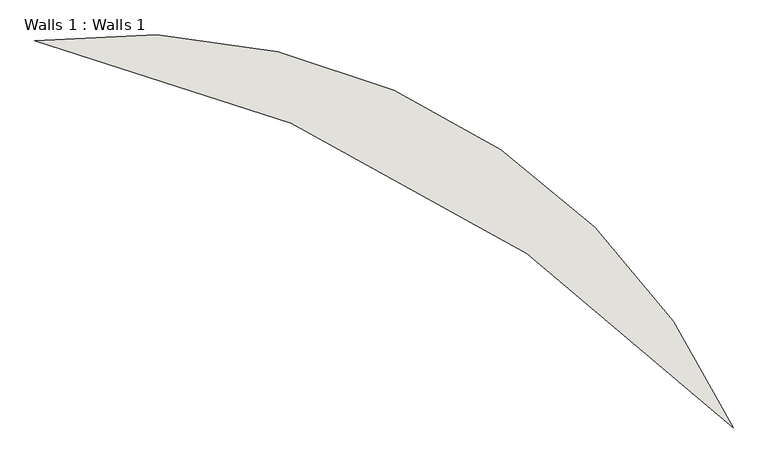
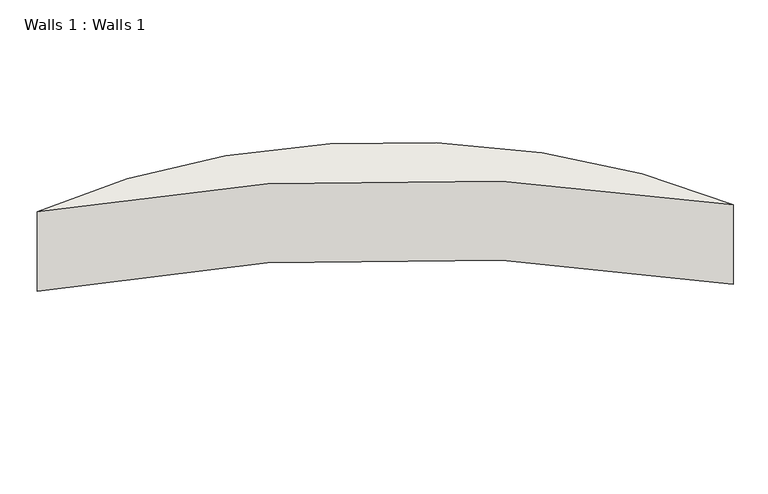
"""IFC4 building model written with IfcOpenShell, lengths in millimetres: wall geometry, Walls 1 : Walls 1."""

from ifc_helpers import new_model, si_unit, point, frame_2d, origin, origin_with_axes, place, context, project, spatial, circle_curve, trimmed, segment, composite_curve, outline, extrude, source, transform, mapped, element, save


def walls_1_walls_1_20c79dd2(model_context):
    return source(origin(), model_context, "Body", "SweptSolid", [
        extrude(outline(composite_curve([segment(trimmed(circle_curve(frame_2d((6245.0483329, -10072.9508536)), 31261.8268674), [point((28631.0016498, 11748.3899207))], [point((12887.8469213, 20474.9630851))], True, "CARTESIAN"), True, "CONTINUOUS"), segment(trimmed(circle_curve(frame_2d((14960.0636537, 5649.352973)), 14969.729369), [point((12887.8469213, 20474.9630851))], [point((28631.0016498, 11748.3899207))], False, "CARTESIAN"), True, "CONTINUOUS")], self_intersect=False)), origin_with_axes(), (0.0, 0.0, 1.0), 2500.0),
    ])


if __name__ == "__main__":
    model = new_model("IFC4")
    model_context = context("Model", 3, world=origin())
    ifc_project = project(units=[si_unit("LENGTHUNIT", "METRE", prefix="MILLI")], contexts=[model_context])
    site = spatial("IfcSite", under=ifc_project)
    building = spatial("IfcBuilding", under=site)
    placement = place(None, origin())
    walls_1_walls_1_shape = walls_1_walls_1_20c79dd2(model_context)
    element("IfcWall", 1, ObjectType="Walls 1 : Walls 1", at=placement, inside=building, context=model_context, shape_type="MappedRepresentation", body=[
        mapped(walls_1_walls_1_shape, transform((0.0, 0.0, 0.0), x_axis=(1.0, 0.0, 0.0), y_axis=(0.0, 1.0, 0.0), z_axis=(0.0, 0.0, 1.0))),
    ])
    save(model, "model.ifc")
